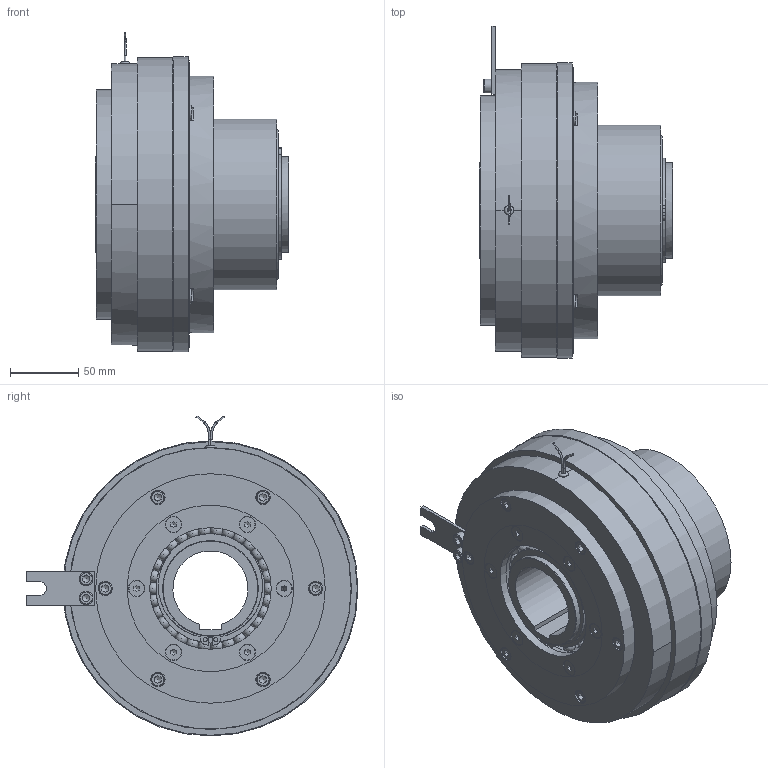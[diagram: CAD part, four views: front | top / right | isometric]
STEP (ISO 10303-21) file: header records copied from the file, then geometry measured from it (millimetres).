
FILE_DESCRIPTION(/* description */ (''),/* implementation_level */ '2;1');
FILE_NAME(/* name */ 'X:\INVENTOR\DISEGNI\08_Freni_Friz_Elettmag_Monodisco\08_26 EMSL_DF\EMSL_DF STEP\08_26_210_41 EMSL210_DF-R@STEP.stp',/* time_stamp */ '2018-04-24T09:50:32+02:00',/* author */ ('stefano'),/* organization */ (''),/* preprocessor_version */ 'ST-DEVELOPER v17',/* originating_system */ 'Autodesk Inventor 2018',/* authorisation */ '');
FILE_SCHEMA (('AUTOMOTIVE_DESIGN { 1 0 10303 214 3 1 1 }'));
Length unit declared in the file: millimetre
Products named in the file (1): 08_26_210_41 EMSL210_DF-R_Substitute_1
Bounding box: 142 x 243 x 234.22 mm (x, y, z)
Volume: 2415506.2 mm3; surface area: 481234.7 mm2
Topology: 1 solids, 1 shells, 904 faces, 2998 edges, 2036 vertices
Faces by surface type: plane 337, cylinder 265, torus 165, cone 69, sphere 66, bspline 2
Full cylindrical faces by diameter (mm): 1.154 x2, 1.5 x1, 2 x4, 3 x4, 3.5 x2, 4.917 x8, 6.647 x8, 7 x4, 7.1 x4, 10 x16, 10.5 x6, 11 x4, 11.34 x6, 12 x6, 13 x8, 67 x2, 70 x5, 79.6 x4, 82 x1, 82.8 x6, 89 x1, 90.4 x4, 92 x1, 97.2 x6, 110 x5, 115 x1, 125 x1, 133 x2, 134 x2, 144 x1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
Entity records: 39571 total; most frequent: CARTESIAN_POINT 13394, ORIENTED_EDGE 5674, DIRECTION 5247, EDGE_CURVE 2837, AXIS2_PLACEMENT_3D 2238, VERTEX_POINT 2036, CIRCLE 1335, EDGE_LOOP 1209
